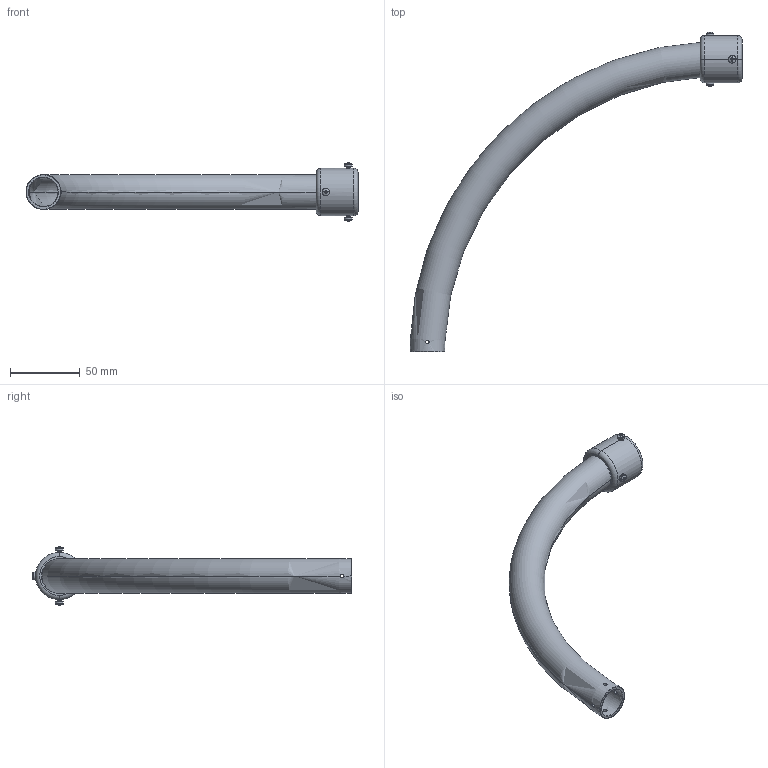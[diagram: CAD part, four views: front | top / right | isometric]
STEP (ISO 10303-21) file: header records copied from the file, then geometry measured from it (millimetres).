
FILE_DESCRIPTION (( 'STEP AP214' ), '1' );
FILE_NAME ('0000003146.STEP', '2015-11-20T08:24:21', ( 'HP' ), ( 'Hewlett-Packard Company' ), 'SwSTEP 2.0', 'SolidWorks 2014', '' );
FILE_SCHEMA (( 'AUTOMOTIVE_DESIGN' ));
Length unit declared in the file: millimetre
Products named in the file (4): pan head cross recess screw_din_ISO 7045 - M3 x 6 - Z --- 6S; 0000003145; 0000003144; 0000003146
Assembly tree (6 placements, depth 2):
  0000003146
    0000003144
    0000003145
    pan head cross recess screw_din_ISO 7045 - M3 x 6 - Z --- 6S  x4
Bounding box: 238.14 x 229.13 x 41.71 mm (x, y, z)
Volume: 59884.8 mm3; surface area: 54793.8 mm2
Topology: 6 solids, 6 shells, 491 faces, 1279 edges, 785 vertices
Faces by surface type: cone 214, cylinder 136, plane 97, torus 32, sphere 8, bspline 4
Entity records: 7689 total; most frequent: CARTESIAN_POINT 3031, ORIENTED_EDGE 946, DIRECTION 943, EDGE_CURVE 473, AXIS2_PLACEMENT_3D 402, VERTEX_POINT 293, CIRCLE 221, EDGE_LOOP 194
